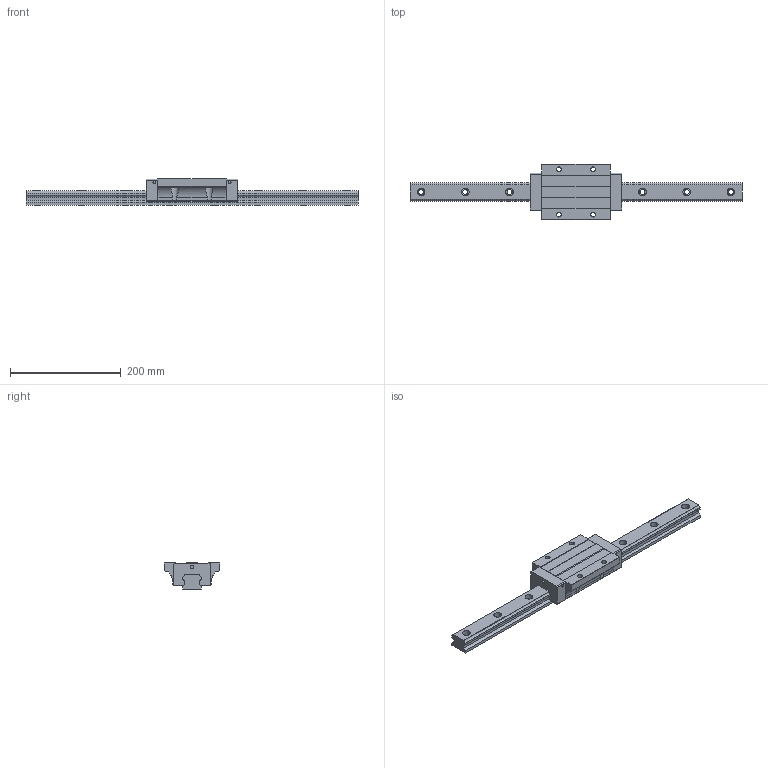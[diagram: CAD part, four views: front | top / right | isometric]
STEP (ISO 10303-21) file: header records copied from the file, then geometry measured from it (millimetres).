
FILE_DESCRIPTION (( 'STEP AP203' ), '1' );
FILE_NAME ('TRH35FE-WW.STEP', '2024-05-08T03:34:55', ( '' ), ( '' ), 'SwSTEP 2.0', 'SolidWorks 2022', '' );
FILE_SCHEMA (( 'CONFIG_CONTROL_DESIGN' ));
Length unit declared in the file: millimetre
Products named in the file (1): TRH35FE-WW
Bounding box: 600 x 100 x 48 mm (x, y, z)
Volume: 859686.2 mm3; surface area: 139440.1 mm2
Topology: 2 solids, 2 shells, 212 faces, 580 edges, 386 vertices
Faces by surface type: cylinder 112, plane 100
Entity records: 7523 total; most frequent: CARTESIAN_POINT 1875, DIRECTION 1174, ORIENTED_EDGE 1160, EDGE_CURVE 580, AXIS2_PLACEMENT_3D 409, VERTEX_POINT 386, VECTOR 356, LINE 356
